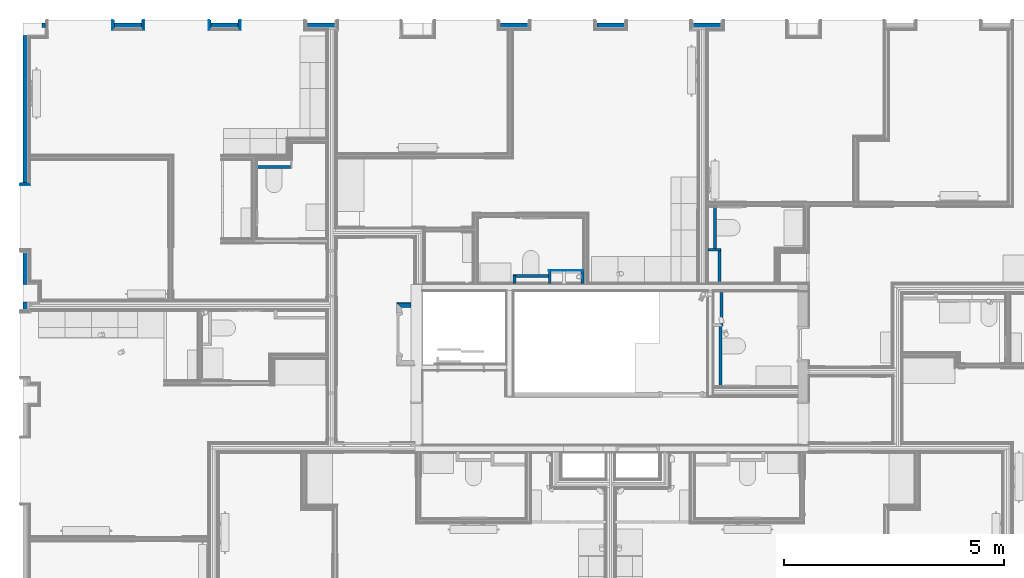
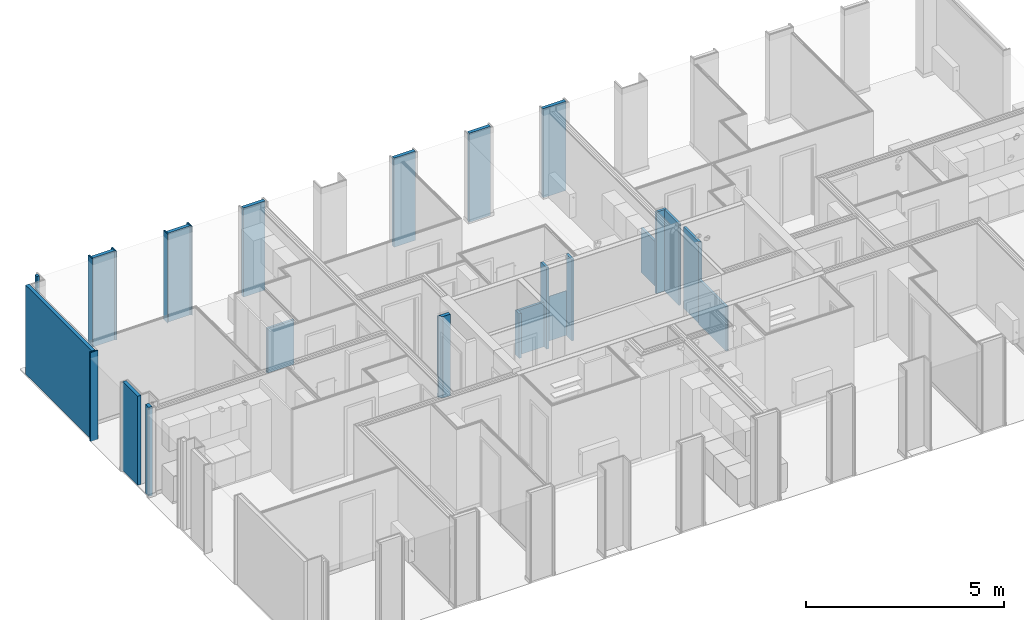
# One storey, part 4 of 82: 32 walls.
"""IFC2X3 building model written with IfcOpenShell, lengths in metres."""

from ifc_helpers import new_model, entity, si_unit, converted_unit, derived_unit, money_unit, direction, frame, frame_2d, origin_with_axes, place, context, subcontext, project, spatial, polyline, rectangle, outline, extrude, clip, bounded_halfspace, material, layer, layer_set, layer_usage, type_object, element, save


model = new_model("IFC2X3")

# Units and contexts
model_context = context("Model", 3, precision=1e-05, world=origin_with_axes(), true_north=direction((0.0, 1.0)))
body_context = subcontext(model_context, "Body", "Model", "MODEL_VIEW", scale=1.0)
ifc_project = project(units=[si_unit("LENGTHUNIT", "METRE"), si_unit("AREAUNIT", "SQUARE_METRE"), si_unit("VOLUMEUNIT", "CUBIC_METRE"), si_unit("ABSORBEDDOSEUNIT", "GRAY"), si_unit("AMOUNTOFSUBSTANCEUNIT", "MOLE"), si_unit("DOSEEQUIVALENTUNIT", "SIEVERT"), si_unit("ELECTRICCAPACITANCEUNIT", "FARAD"), si_unit("ELECTRICCHARGEUNIT", "COULOMB"), si_unit("ELECTRICCONDUCTANCEUNIT", "SIEMENS"), si_unit("ELECTRICCURRENTUNIT", "AMPERE"), si_unit("ELECTRICRESISTANCEUNIT", "OHM"), si_unit("ELECTRICVOLTAGEUNIT", "VOLT"), si_unit("ENERGYUNIT", "JOULE"), si_unit("FORCEUNIT", "NEWTON"), si_unit("FREQUENCYUNIT", "HERTZ"), si_unit("ILLUMINANCEUNIT", "LUX"), si_unit("INDUCTANCEUNIT", "HENRY"), si_unit("LUMINOUSFLUXUNIT", "LUMEN"), si_unit("LUMINOUSINTENSITYUNIT", "CANDELA"), si_unit("MAGNETICFLUXDENSITYUNIT", "TESLA"), si_unit("MAGNETICFLUXUNIT", "WEBER"), si_unit("MASSUNIT", "GRAM"), converted_unit("PLANEANGLEUNIT", "degree", entity("IfcReal", 0.0174532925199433), si_unit("PLANEANGLEUNIT", "RADIAN"), dimensions=[0, 0, 0, 0, 0, 0, 0]), si_unit("POWERUNIT", "WATT"), si_unit("PRESSUREUNIT", "PASCAL"), si_unit("RADIOACTIVITYUNIT", "BECQUEREL"), si_unit("SOLIDANGLEUNIT", "STERADIAN"), si_unit("THERMODYNAMICTEMPERATUREUNIT", "KELVIN"), si_unit("TIMEUNIT", "SECOND"), derived_unit("ACCELERATIONUNIT", [(si_unit("LENGTHUNIT", "METRE"), 1), (si_unit("TIMEUNIT", "SECOND"), -2)]), derived_unit("ANGULARVELOCITYUNIT", [(converted_unit("PLANEANGLEUNIT", "degree", entity("IfcReal", 0.0174532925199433), si_unit("PLANEANGLEUNIT", "RADIAN"), dimensions=[0, 0, 0, 0, 0, 0, 0]), 1), (si_unit("TIMEUNIT", "SECOND"), -1)]), derived_unit("CURVATUREUNIT", [(converted_unit("PLANEANGLEUNIT", "degree", entity("IfcReal", 0.0174532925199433), si_unit("PLANEANGLEUNIT", "RADIAN"), dimensions=[0, 0, 0, 0, 0, 0, 0]), 1), (si_unit("LENGTHUNIT", "METRE"), -1)]), derived_unit("DYNAMICVISCOSITYUNIT", [(si_unit("PRESSUREUNIT", "PASCAL"), 1), (si_unit("TIMEUNIT", "SECOND"), 1)]), derived_unit("HEATFLUXDENSITYUNIT", [(si_unit("POWERUNIT", "WATT"), 1), (si_unit("LENGTHUNIT", "METRE"), -2)]), derived_unit("HEATINGVALUEUNIT", [(si_unit("ENERGYUNIT", "JOULE"), 1), (si_unit("MASSUNIT", "GRAM"), -1)]), derived_unit("INTEGERCOUNTRATEUNIT", [(si_unit("TIMEUNIT", "SECOND"), -1)]), derived_unit("IONCONCENTRATIONUNIT", [(si_unit("MASSUNIT", "GRAM"), 1), (si_unit("VOLUMEUNIT", "CUBIC_METRE"), -1)]), derived_unit("ISOTHERMALMOISTURECAPACITYUNIT", [(si_unit("VOLUMEUNIT", "CUBIC_METRE"), 1), (si_unit("MASSUNIT", "GRAM"), -1)]), derived_unit("KINEMATICVISCOSITYUNIT", [(si_unit("AREAUNIT", "SQUARE_METRE"), 1), (si_unit("TIMEUNIT", "SECOND"), -1)]), derived_unit("LINEARFORCEUNIT", [(si_unit("FORCEUNIT", "NEWTON"), 1), (si_unit("LENGTHUNIT", "METRE"), -1)]), derived_unit("LINEARMOMENTUNIT", [(si_unit("FORCEUNIT", "NEWTON"), 1), (si_unit("LENGTHUNIT", "METRE"), -1)]), derived_unit("LINEARSTIFFNESSUNIT", [(si_unit("FORCEUNIT", "NEWTON"), 1), (si_unit("LENGTHUNIT", "METRE"), -1)]), derived_unit("LINEARVELOCITYUNIT", [(si_unit("LENGTHUNIT", "METRE"), 1), (si_unit("TIMEUNIT", "SECOND"), -1)]), derived_unit("LUMINOUSINTENSITYDISTRIBUTIONUNIT", [(si_unit("LUMINOUSINTENSITYUNIT", "CANDELA"), 1), (si_unit("LUMINOUSFLUXUNIT", "LUMEN"), -1)]), derived_unit("MASSDENSITYUNIT", [(si_unit("MASSUNIT", "GRAM"), 1), (si_unit("VOLUMEUNIT", "CUBIC_METRE"), -1)]), derived_unit("MASSFLOWRATEUNIT", [(si_unit("MASSUNIT", "GRAM"), 1), (si_unit("TIMEUNIT", "SECOND"), -1)]), derived_unit("MASSPERLENGTHUNIT", [(si_unit("MASSUNIT", "GRAM"), 1), (si_unit("LENGTHUNIT", "METRE"), -1)]), derived_unit("MODULUSOFELASTICITYUNIT", [(si_unit("FORCEUNIT", "NEWTON"), 1), (si_unit("AREAUNIT", "SQUARE_METRE"), -1)]), derived_unit("MODULUSOFLINEARSUBGRADEREACTIONUNIT", [(si_unit("FORCEUNIT", "NEWTON"), 1), (si_unit("LENGTHUNIT", "METRE"), -2)]), derived_unit("MODULUSOFROTATIONALSUBGRADEREACTIONUNIT", [(si_unit("FORCEUNIT", "NEWTON"), 1), (si_unit("LENGTHUNIT", "METRE"), 1)]), derived_unit("MODULUSOFSUBGRADEREACTIONUNIT", [(si_unit("FORCEUNIT", "NEWTON"), 1), (si_unit("VOLUMEUNIT", "CUBIC_METRE"), -1)]), derived_unit("MOISTUREDIFFUSIVITYUNIT", [(si_unit("VOLUMEUNIT", "CUBIC_METRE"), 1), (si_unit("TIMEUNIT", "SECOND"), -1)]), derived_unit("MOLECULARWEIGHTUNIT", [(si_unit("MASSUNIT", "GRAM"), 1), (si_unit("AMOUNTOFSUBSTANCEUNIT", "MOLE"), -1)]), derived_unit("PLANARFORCEUNIT", [(si_unit("FORCEUNIT", "NEWTON"), 1), (si_unit("LENGTHUNIT", "METRE"), -2)]), derived_unit("ROTATIONALFREQUENCYUNIT", [(si_unit("TIMEUNIT", "SECOND"), -1)]), derived_unit("ROTATIONALMASSUNIT", [(si_unit("MASSUNIT", "GRAM"), 1), (si_unit("LENGTHUNIT", "METRE"), 2)]), derived_unit("ROTATIONALSTIFFNESSUNIT", [(si_unit("FORCEUNIT", "NEWTON"), 1), (si_unit("LENGTHUNIT", "METRE"), 1), (converted_unit("PLANEANGLEUNIT", "degree", entity("IfcReal", 0.0174532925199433), si_unit("PLANEANGLEUNIT", "RADIAN"), dimensions=[0, 0, 0, 0, 0, 0, 0]), -1)]), derived_unit("SECTIONAREAINTEGRALUNIT", [(si_unit("LENGTHUNIT", "METRE"), 5)]), derived_unit("SECTIONMODULUSUNIT", [(si_unit("LENGTHUNIT", "METRE"), 3)]), derived_unit("SHEARMODULUSUNIT", [(si_unit("FORCEUNIT", "NEWTON"), 1), (si_unit("AREAUNIT", "SQUARE_METRE"), -1)]), derived_unit("SOUNDPOWERUNIT", [(si_unit("ENERGYUNIT", "JOULE"), 1), (si_unit("TIMEUNIT", "SECOND"), -1)]), derived_unit("SPECIFICHEATCAPACITYUNIT", [(si_unit("FORCEUNIT", "NEWTON"), 1), (si_unit("MASSUNIT", "GRAM"), -1), (si_unit("THERMODYNAMICTEMPERATUREUNIT", "KELVIN"), -1)]), derived_unit("TEMPERATUREGRADIENTUNIT", [(si_unit("THERMODYNAMICTEMPERATUREUNIT", "KELVIN"), 1), (si_unit("LENGTHUNIT", "METRE"), -1)]), derived_unit("THERMALADMITTANCEUNIT", [(si_unit("POWERUNIT", "WATT"), 1), (si_unit("AREAUNIT", "SQUARE_METRE"), -1), (si_unit("THERMODYNAMICTEMPERATUREUNIT", "KELVIN"), -1)]), derived_unit("THERMALCONDUCTANCEUNIT", [(si_unit("POWERUNIT", "WATT"), 1), (si_unit("LENGTHUNIT", "METRE"), -1), (si_unit("THERMODYNAMICTEMPERATUREUNIT", "KELVIN"), -1)]), derived_unit("THERMALEXPANSIONCOEFFICIENTUNIT", [(si_unit("THERMODYNAMICTEMPERATUREUNIT", "KELVIN"), -1)]), derived_unit("THERMALRESISTANCEUNIT", [(si_unit("AREAUNIT", "SQUARE_METRE"), 1), (si_unit("POWERUNIT", "WATT"), -1)]), derived_unit("THERMALTRANSMITTANCEUNIT", [(si_unit("POWERUNIT", "WATT"), 1), (si_unit("AREAUNIT", "SQUARE_METRE"), -1), (si_unit("THERMODYNAMICTEMPERATUREUNIT", "KELVIN"), -1)]), derived_unit("TORQUEUNIT", [(si_unit("FORCEUNIT", "NEWTON"), 1), (si_unit("LENGTHUNIT", "METRE"), 1)]), derived_unit("VAPORPERMEABILITYUNIT", [(si_unit("MASSUNIT", "GRAM"), 1), (si_unit("TIMEUNIT", "SECOND"), -1)]), derived_unit("VOLUMETRICFLOWRATEUNIT", [(si_unit("VOLUMEUNIT", "CUBIC_METRE"), 1), (si_unit("TIMEUNIT", "SECOND"), -1)]), derived_unit("WARPINGCONSTANTUNIT", [(si_unit("LENGTHUNIT", "METRE"), 6)]), derived_unit("WARPINGMOMENTUNIT", [(si_unit("FORCEUNIT", "NEWTON"), 1), (si_unit("LENGTHUNIT", "METRE"), 2)]), money_unit("GBP")], contexts=[model_context])

# Site, building, storey
site_placement = place(None, origin_with_axes())
site = spatial("IfcSite", under=ifc_project, at=site_placement, Name="Site", CompositionType="ELEMENT")
building_placement = place(site_placement, origin_with_axes())
building = spatial("IfcBuilding", under=site, at=building_placement, Name="Building01", CompositionType="ELEMENT")
storey_placement = place(building_placement, frame((0.0, 0.0, 12.13), z_axis=(0.0, 0.0, 1.0), x_axis=(1.0, 0.0, 0.0)))
storey = spatial("IfcBuildingStorey", under=building, at=storey_placement, Name="3F", CompositionType="ELEMENT", Elevation=12.13)

# Walls
ifc_material_1 = material(Name="A_BSUK_WallsExternal_Block")
ifc_layer_1 = layer(ifc_material_1, 0.1, ventilated=False)
ifc_layer_set_1 = layer_set([ifc_layer_1])
ifc_layer_usage_1 = layer_usage(ifc_layer_set_1, "AXIS2", "POSITIVE", 0.0)
wall_type_1 = type_object("IfcWallType", Name="A-Walls-ExternalBlock", PredefinedType="NOTDEFINED")
wall_1_placement = place(storey_placement, frame((0.6, 14.63, 0.0), z_axis=(0.0, 0.0, 1.0), x_axis=(1.0, 0.0, 0.0)))
element("IfcWallStandardCase", 1, at=wall_1_placement, inside=storey, type_object=wall_type_1, material=ifc_layer_usage_1, Name="A-Walls-ExternalBlock", ObjectType="A-Walls-ExternalBlock", context=body_context, shape_type="SweptSolid", body=[
    extrude(rectangle(XDim=0.077, YDim=0.1, at=frame_2d((0.0385, 0.05), x_axis=(1.0, 0.0))), origin_with_axes(), (0.0, 0.0, 1.0), 2.74),
])
wall_2_placement = place(storey_placement, frame((0.17, 14.45, 0.0), z_axis=(0.0, 0.0, 1.0), x_axis=(0.0, -1.0, 0.0)))
element("IfcWallStandardCase", 2, at=wall_2_placement, inside=storey, type_object=wall_type_1, material=ifc_layer_usage_1, Name="A-Walls-ExternalBlock", ObjectType="A-Walls-ExternalBlock", context=body_context, shape_type="SweptSolid", body=[
    extrude(rectangle(XDim=3.347, YDim=0.1, at=frame_2d((1.6735, 0.05), x_axis=(1.0, 0.0))), origin_with_axes(), (0.0, 0.0, 1.0), 2.74),
])
wall_3_placement = place(storey_placement, frame((0.17, 9.55018, 0.0), z_axis=(0.0, 0.0, 1.0), x_axis=(0.0, -1.0, 0.0)))
element("IfcWallStandardCase", 3, at=wall_3_placement, inside=storey, type_object=wall_type_1, material=ifc_layer_usage_1, Name="A-Walls-ExternalBlock", ObjectType="A-Walls-ExternalBlock", context=body_context, shape_type="SweptSolid", body=[
    extrude(rectangle(XDim=0.1, YDim=0.75018, at=frame_2d((0.37509, 0.05), x_axis=(0.0, -1.0))), origin_with_axes(), (0.0, 0.0, 1.0), 2.74),
])
wall_4_placement = place(storey_placement, frame((0.17, 8.4, 0.0), z_axis=(0.0, 0.0, 1.0), x_axis=(0.0, -1.0, 0.0)))
element("IfcWallStandardCase", 4, at=wall_4_placement, inside=storey, type_object=wall_type_1, material=ifc_layer_usage_1, Name="A-Walls-ExternalBlock", ObjectType="A-Walls-ExternalBlock", context=body_context, shape_type="SweptSolid", body=[
    extrude(rectangle(XDim=0.167, YDim=0.1, at=frame_2d((0.0835, 0.05), x_axis=(-1.0, 0.0))), origin_with_axes(), (0.0, 0.0, 1.0), 2.74),
])
for number, where, z_axis, x_axis, name in (
    (5, (2.243, 14.63, 0.0), (0.0, 0.0, 1.0), (1.0, 0.0, 0.0), "A-Walls-ExternalBlock"),
    (6, (4.433, 14.63, 0.0), (0.0, 0.0, 1.0), (1.0, 0.0, 0.0), "A-Walls-ExternalBlock"),
):
    element("IfcWallStandardCase", number, at=place(storey_placement, frame(where, z_axis=z_axis, x_axis=x_axis)), inside=storey, type_object=wall_type_1, material=ifc_layer_usage_1, Name=name, ObjectType="A-Walls-ExternalBlock", context=body_context, shape_type="SweptSolid", body=[
        extrude(rectangle(XDim=0.624, YDim=0.1, at=frame_2d((0.312, 0.05), x_axis=(1.0, 0.0))), origin_with_axes(), (0.0, 0.0, 1.0), 2.74),
    ])
wall_5_placement = place(storey_placement, frame((6.622876, 14.63, 0.0), z_axis=(0.0, 0.0, 1.0), x_axis=(1.0, 0.0, 0.0)))
element("IfcWallStandardCase", 7, at=wall_5_placement, inside=storey, type_object=wall_type_1, material=ifc_layer_usage_1, Name="A-Walls-ExternalBlock", ObjectType="A-Walls-ExternalBlock", context=body_context, shape_type="SweptSolid", body=[
    extrude(rectangle(XDim=0.624124, YDim=0.1, at=frame_2d((0.312062, 0.05), x_axis=(-1.0, 0.0))), origin_with_axes(), (0.0, 0.0, 1.0), 2.74),
])
for number, where, z_axis, x_axis, name in (
    (8, (11.003, 14.63, 0.0), (0.0, 0.0, 1.0), (1.0, 0.0, 0.0), "A-Walls-ExternalBlock"),
    (9, (13.193, 14.63, 0.0), (0.0, 0.0, 1.0), (1.0, 0.0, 0.0), "A-Walls-ExternalBlock"),
):
    element("IfcWallStandardCase", number, at=place(storey_placement, frame(where, z_axis=z_axis, x_axis=x_axis)), inside=storey, type_object=wall_type_1, material=ifc_layer_usage_1, Name=name, ObjectType="A-Walls-ExternalBlock", context=body_context, shape_type="SweptSolid", body=[
        extrude(rectangle(XDim=0.624, YDim=0.1, at=frame_2d((0.312, 0.05), x_axis=(1.0, 0.0))), origin_with_axes(), (0.0, 0.0, 1.0), 2.74),
    ])
wall_6_placement = place(storey_placement, frame((15.347, 14.63, 0.0), z_axis=(0.0, 0.0, 1.0), x_axis=(1.0, 0.0, 0.0)))
element("IfcWallStandardCase", 10, at=wall_6_placement, inside=storey, type_object=wall_type_1, material=ifc_layer_usage_1, Name="A-Walls-ExternalBlock", ObjectType="A-Walls-ExternalBlock", context=body_context, shape_type="SweptSolid", body=[
    extrude(rectangle(XDim=0.1, YDim=0.66, at=frame_2d((0.33, 0.05), x_axis=(0.0, -1.0))), origin_with_axes(), (0.0, 0.0, 1.0), 2.74),
])
ifc_material_2 = material(Name="A_BSUK_OpeningsClearance")
ifc_layer_2 = layer(ifc_material_2, 0.05, ventilated=False)
ifc_material_3 = material(Name="A_BSUK_Walls_Timber")
ifc_layer_3 = layer(ifc_material_3, 0.015, ventilated=False)
ifc_layer_set_2 = layer_set([ifc_layer_2, ifc_layer_3])
ifc_layer_usage_2 = layer_usage(ifc_layer_set_2, "AXIS2", "POSITIVE", 0.0)
wall_type_2 = type_object("IfcWallType", Name="SHE_A-Walls_Type05c_PreWallShell_65mm", PredefinedType="NOTDEFINED")
wall_7_placement = place(storey_placement, frame((12.153871, 8.82, 0.0), z_axis=(0.0, 0.0, 1.0), x_axis=(0.0, 1.0, 0.0)))
element("IfcWallStandardCase", 11, at=wall_7_placement, inside=storey, type_object=wall_type_2, material=ifc_layer_usage_2, Name="5C", ObjectType="SHE_A-Walls_Type05c_PreWallShell_65mm", context=body_context, shape_type="SweptSolid", body=[
    extrude(outline(polyline([(0.285, 0.05), (0.3, 0.05), (0.3, 0.065), (0.0, 0.065), (0.0, 0.0), (0.285, 0.0), (0.285, 0.05)])), origin_with_axes(), (0.0, 0.0, 1.0), 2.51),
])
ifc_layer_set_3 = layer_set([ifc_layer_3, ifc_layer_2])
ifc_layer_usage_3 = layer_usage(ifc_layer_set_3, "AXIS2", "POSITIVE", 0.0)
wall_8_placement = place(storey_placement, frame((15.985, 7.915, 0.0), z_axis=(0.0, 0.0, 1.0), x_axis=(0.0, 1.0, 0.0)))
element("IfcWallStandardCase", 12, at=wall_8_placement, inside=storey, type_object=wall_type_2, material=ifc_layer_usage_3, Name="5C", ObjectType="SHE_A-Walls_Type05c_PreWallShell_65mm", context=body_context, shape_type="SweptSolid", body=[
    extrude(outline(polyline([(0.72, -0.05), (0.75, -0.05), (0.75, 0.0), (0.0, 0.0), (-0.065, -0.065), (0.72, -0.065), (0.72, -0.05)])), origin_with_axes(), (0.0, 0.0, 1.0), 2.51),
])
wall_9_placement = place(storey_placement, frame((15.965, 6.59, 0.0), z_axis=(0.0, 0.0, 1.0), x_axis=(0.0, 1.0, 0.0)))
element("IfcWallStandardCase", 13, at=wall_9_placement, inside=storey, type_object=wall_type_2, material=ifc_layer_usage_3, Name="5C", ObjectType="SHE_A-Walls_Type05c_PreWallShell_65mm", context=body_context, shape_type="SweptSolid", body=[
    extrude(outline(polyline([(1.275, -0.05), (1.275, 0.0), (-0.103, 0.0), (-0.103, -0.05), (-0.115, -0.05), (-0.115, -0.065), (1.325, -0.065), (1.325, -0.05), (1.275, -0.05)])), origin_with_axes(), (0.0, 0.0, 1.0), 1.375),
])
wall_10_placement = place(storey_placement, frame((12.828585, 8.82, 0.0), z_axis=(0.0, 0.0, 1.0), x_axis=(0.0, 1.0, 0.0)))
element("IfcWallStandardCase", 14, at=wall_10_placement, inside=storey, type_object=wall_type_2, material=ifc_layer_usage_3, Name="5C", ObjectType="SHE_A-Walls_Type05c_PreWallShell_65mm", context=body_context, shape_type="SweptSolid", body=[
    extrude(outline(polyline([(0.285, -0.05), (0.285, 0.0), (0.0, 0.0), (0.0, -0.065), (0.3, -0.065), (0.3, -0.05), (0.285, -0.05)])), origin_with_axes(), (0.0, 0.0, 1.0), 2.51),
])
wall_11_placement = place(storey_placement, frame((15.943132, 9.555, 0.0), z_axis=(0.0, 0.0, 1.0), x_axis=(0.0, -1.0, 0.0)))
element("IfcWallStandardCase", 15, at=wall_11_placement, inside=storey, type_object=wall_type_2, material=ifc_layer_usage_2, Name="5C", ObjectType="SHE_A-Walls_Type05c_PreWallShell_65mm", context=body_context, shape_type="SweptSolid", body=[
    extrude(outline(polyline([(0.72, 0.05), (0.72, 0.065), (-0.065, 0.065), (-0.065, 0.05), (0.0, 0.05), (0.0, 0.0), (0.735, 0.0), (0.735, 0.05), (0.72, 0.05)])), origin_with_axes(), (0.0, 0.0, 1.0), 2.51),
])
wall_12_placement = place(storey_placement, frame((15.708132, 9.555, 0.0), z_axis=(0.0, 0.0, 1.0), x_axis=(1.0, 0.0, 0.0)))
element("IfcWallStandardCase", 16, at=wall_12_placement, inside=storey, type_object=wall_type_2, material=ifc_layer_usage_2, Name="5C", ObjectType="SHE_A-Walls_Type05c_PreWallShell_65mm", context=body_context, shape_type="SweptSolid", body=[
    extrude(rectangle(XDim=0.285, YDim=0.065, at=frame_2d((0.1425, 0.0325), x_axis=(-1.0, 0.0))), origin_with_axes(), (0.0, 0.0, 1.0), 2.51),
])
wall_13_placement = place(storey_placement, frame((15.843132, 9.605, 0.0), z_axis=(0.0, 0.0, 1.0), x_axis=(0.0, 1.0, 0.0)))
element("IfcWallStandardCase", 17, at=wall_13_placement, inside=storey, type_object=wall_type_2, material=ifc_layer_usage_3, Name="5C", ObjectType="SHE_A-Walls_Type05c_PreWallShell_65mm", context=body_context, shape_type="SweptSolid", body=[
    extrude(outline(polyline([(0.95, -0.05), (0.965, -0.05), (0.965, 0.0), (0.0, 0.0), (0.0, -0.05), (-0.05, -0.05), (-0.05, -0.065), (0.95, -0.065), (0.95, -0.05)])), origin_with_axes(), (0.0, 0.0, 1.0), 1.375),
])
wall_14_placement = place(storey_placement, frame((5.464669, 11.495672, 0.0), z_axis=(0.0, 0.0, 1.0), x_axis=(1.0, 0.0, 0.0)))
element("IfcWallStandardCase", 18, at=wall_14_placement, inside=storey, type_object=wall_type_2, material=ifc_layer_usage_3, Name="5C", ObjectType="SHE_A-Walls_Type05c_PreWallShell_65mm", context=body_context, shape_type="SweptSolid", body=[
    extrude(outline(polyline([(0.775, 0.0), (0.0, 0.0), (0.0, -0.05), (0.015, -0.05), (0.015, -0.065), (0.775, -0.065), (0.775, 0.0)])), origin_with_axes(), (0.0, 0.0, 1.0), 1.375),
])
wall_15_placement = place(storey_placement, frame((12.103871, 8.954996, 0.0), z_axis=(0.0, 0.0, 1.0), x_axis=(-1.0, 0.0, 0.0)))
element("IfcWallStandardCase", 19, at=wall_15_placement, inside=storey, type_object=wall_type_2, material=ifc_layer_usage_3, Name="5C", ObjectType="SHE_A-Walls_Type05c_PreWallShell_65mm", context=body_context, shape_type="SweptSolid", body=[
    extrude(outline(polyline([(0.749998, -0.05), (0.749998, 0.0), (0.0, 0.0), (0.0, -0.05), (0.015, -0.05), (0.015, -0.065), (0.799998, -0.065), (0.799998, -0.05), (0.749998, -0.05)])), origin_with_axes(), (0.0, 0.0, 1.0), 1.375),
])
wall_16_placement = place(storey_placement, frame((11.353873, 8.82, 0.0), z_axis=(0.0, 0.0, 1.0), x_axis=(0.0, 1.0, 0.0)))
element("IfcWallStandardCase", 20, at=wall_16_placement, inside=storey, type_object=wall_type_2, material=ifc_layer_usage_2, Name="5C", ObjectType="SHE_A-Walls_Type05c_PreWallShell_65mm", context=body_context, shape_type="SweptSolid", body=[
    extrude(outline(polyline([(0.184996, 0.05), (0.199996, 0.05), (0.199996, 0.065), (0.0, 0.065), (0.0, 0.0), (0.184996, 0.0), (0.184996, 0.05)])), origin_with_axes(), (0.0, 0.0, 1.0), 1.375),
])
ifc_material_4 = material(Name="A_BSUK_WallInternal_Finishes_Plasterboard")
ifc_layer_4 = layer(ifc_material_4, 0.013, ventilated=False)
ifc_layer_set_4 = layer_set([ifc_layer_4])
ifc_layer_usage_4 = layer_usage(ifc_layer_set_4, "AXIS2", "POSITIVE", 0.0)
wall_type_3 = type_object("IfcWallType", Name="default", PredefinedType="NOTDEFINED")
wall_17_placement = place(storey_placement, frame((0.305, 11.068, 0.0), z_axis=(0.0, 0.0, 1.0), x_axis=(-1.0, 0.0, 0.0)))
element("IfcWallStandardCase", 21, at=wall_17_placement, inside=storey, type_object=wall_type_3, material=ifc_layer_usage_4, Name="default", ObjectType="default", context=body_context, shape_type="SweptSolid", body=[
    extrude(outline(polyline([(-0.013, 0.013), (0.0, 0.0), (0.205, 0.0), (0.205, 0.013), (-0.013, 0.013)])), origin_with_axes(), (0.0, 0.0, 1.0), 2.74),
])
ifc_material_5 = material(Name="A_BSUK_Insulation")
ifc_layer_5 = layer(ifc_material_5, 0.036, ventilated=False)
ifc_layer_set_5 = layer_set([ifc_layer_5])
ifc_layer_usage_5 = layer_usage(ifc_layer_set_5, "AXIS2", "POSITIVE", 0.0)
wall_18_placement = place(storey_placement, frame((0.27, 11.103, 0.0), z_axis=(0.0, 0.0, 1.0), x_axis=(-1.0, 0.0, 0.0)))
element("IfcWallStandardCase", 22, at=wall_18_placement, inside=storey, type_object=wall_type_3, material=ifc_layer_usage_5, Name="default", ObjectType="default", context=body_context, shape_type="SweptSolid", body=[
    extrude(outline(polyline([(-0.036, 0.036), (0.0, 0.0), (0.17, 0.0), (0.17, 0.036), (-0.036, 0.036)])), origin_with_axes(), (0.0, 0.0, 1.0), 2.74),
])
wall_19_placement = place(storey_placement, frame((2.902, 14.8, 0.0), z_axis=(0.0, 0.0, 1.0), x_axis=(0.0, -1.0, 0.0)))
element("IfcWallStandardCase", 23, at=wall_19_placement, inside=storey, type_object=wall_type_3, material=ifc_layer_usage_4, Name="default", ObjectType="default", context=body_context, shape_type="SweptSolid", body=[
    extrude(outline(polyline([(0.218, 0.013), (0.0, 0.013), (0.0, 0.0), (0.205, 0.0), (0.218, 0.013)])), origin_with_axes(), (0.0, 0.0, 1.0), 2.74),
])
wall_20_placement = place(storey_placement, frame((2.867, 14.8, 0.0), z_axis=(0.0, 0.0, 1.0), x_axis=(0.0, -1.0, 0.0)))
element("IfcWallStandardCase", 24, at=wall_20_placement, inside=storey, type_object=wall_type_3, material=ifc_layer_usage_5, Name="default", ObjectType="default", context=body_context, shape_type="SweptSolid", body=[
    extrude(outline(polyline([(0.206, 0.036), (0.0, 0.036), (0.0, 0.0), (0.17, 0.0), (0.206, 0.036)])), origin_with_axes(), (0.0, 0.0, 1.0), 2.74),
])
wall_21_placement = place(storey_placement, frame((2.208, 14.595, 0.0), z_axis=(0.0, 0.0, 1.0), x_axis=(0.0, 1.0, 0.0)))
element("IfcWallStandardCase", 25, at=wall_21_placement, inside=storey, type_object=wall_type_3, material=ifc_layer_usage_4, Name="default", ObjectType="default", context=body_context, shape_type="SweptSolid", body=[
    extrude(outline(polyline([(-0.013, 0.013), (0.0, 0.0), (0.205, 0.0), (0.205, 0.013), (-0.013, 0.013)])), origin_with_axes(), (0.0, 0.0, 1.0), 2.74),
])
wall_22_placement = place(storey_placement, frame((2.243, 14.63, 0.0), z_axis=(0.0, 0.0, 1.0), x_axis=(0.0, 1.0, 0.0)))
element("IfcWallStandardCase", 26, at=wall_22_placement, inside=storey, type_object=wall_type_3, material=ifc_layer_usage_5, Name="default", ObjectType="default", context=body_context, shape_type="SweptSolid", body=[
    extrude(outline(polyline([(-0.036, 0.036), (0.0, 0.0), (0.17, 0.0), (0.17, 0.036), (-0.036, 0.036)])), origin_with_axes(), (0.0, 0.0, 1.0), 2.74),
])
wall_23_placement = place(storey_placement, frame((5.092, 14.8, 0.0), z_axis=(0.0, 0.0, 1.0), x_axis=(0.0, -1.0, 0.0)))
element("IfcWallStandardCase", 27, at=wall_23_placement, inside=storey, type_object=wall_type_3, material=ifc_layer_usage_4, Name="default", ObjectType="default", context=body_context, shape_type="SweptSolid", body=[
    extrude(outline(polyline([(0.218, 0.013), (0.0, 0.013), (0.0, 0.0), (0.205, 0.0), (0.218, 0.013)])), origin_with_axes(), (0.0, 0.0, 1.0), 2.74),
])
wall_24_placement = place(storey_placement, frame((5.057, 14.8, 0.0), z_axis=(0.0, 0.0, 1.0), x_axis=(0.0, -1.0, 0.0)))
element("IfcWallStandardCase", 28, at=wall_24_placement, inside=storey, type_object=wall_type_3, material=ifc_layer_usage_5, Name="default", ObjectType="default", context=body_context, shape_type="SweptSolid", body=[
    extrude(outline(polyline([(0.206, 0.036), (0.0, 0.036), (0.0, 0.0), (0.17, 0.0), (0.206, 0.036)])), origin_with_axes(), (0.0, 0.0, 1.0), 2.74),
])
wall_25_placement = place(storey_placement, frame((4.398, 14.595, 0.0), z_axis=(0.0, 0.0, 1.0), x_axis=(0.0, 1.0, 0.0)))
element("IfcWallStandardCase", 29, at=wall_25_placement, inside=storey, type_object=wall_type_3, material=ifc_layer_usage_4, Name="default", ObjectType="default", context=body_context, shape_type="SweptSolid", body=[
    extrude(outline(polyline([(-0.013, 0.013), (0.0, 0.0), (0.205, 0.0), (0.205, 0.013), (-0.013, 0.013)])), origin_with_axes(), (0.0, 0.0, 1.0), 2.74),
])
wall_26_placement = place(storey_placement, frame((4.433, 14.63, 0.0), z_axis=(0.0, 0.0, 1.0), x_axis=(0.0, 1.0, 0.0)))
element("IfcWallStandardCase", 30, at=wall_26_placement, inside=storey, type_object=wall_type_3, material=ifc_layer_usage_5, Name="default", ObjectType="default", context=body_context, shape_type="SweptSolid", body=[
    extrude(outline(polyline([(-0.036, 0.036), (0.0, 0.0), (0.17, 0.0), (0.17, 0.036), (-0.036, 0.036)])), origin_with_axes(), (0.0, 0.0, 1.0), 2.74),
])
ifc_layer_set_6 = layer_set([ifc_layer_3])
ifc_layer_usage_6 = layer_usage(ifc_layer_set_6, "AXIS2", "POSITIVE", 0.0)
wall_27_placement = place(storey_placement, frame((12.103871, 9.105, 0.0), z_axis=(0.0, 0.0, 1.0), x_axis=(1.0, 0.0, 0.0)))
element("IfcWallStandardCase", 31, at=wall_27_placement, inside=storey, type_object=wall_type_3, material=ifc_layer_usage_6, Name="default", ObjectType="default", context=body_context, shape_type="SweptSolid", body=[
    extrude(rectangle(XDim=0.774714, YDim=0.015, at=frame_2d((0.387357, 0.0075), x_axis=(-1.0, 0.0))), origin_with_axes(), (0.0, 0.0, 1.0), 1.375),
])
ifc_layer_6 = layer(ifc_material_4, 0.015, ventilated=False)
ifc_material_6 = material(Name="Air Cavity")
ifc_layer_7 = layer(ifc_material_6, 0.072, ventilated=False)
ifc_layer_set_7 = layer_set([ifc_layer_6, ifc_layer_7, ifc_layer_6, ifc_layer_3])
ifc_layer_usage_7 = layer_usage(ifc_layer_set_7, "AXIS2", "POSITIVE", 0.0)
wall_type_4 = type_object("IfcWallType", Name="SHE_A-Walls_Type04c_RiserWall_102mm_tall", PredefinedType="NOTDEFINED")
wall_28_placement = place(storey_placement, frame((8.658, 8.372405, 0.015), z_axis=(0.0, 0.0, 1.0), x_axis=(1.0, 0.0, 0.0)))
element("IfcWallStandardCase", 32, at=wall_28_placement, inside=storey, type_object=wall_type_4, material=ifc_layer_usage_7, Name="4C", ObjectType="SHE_A-Walls_Type04c_RiserWall_102mm_tall", context=body_context, shape_type="Clipping", body=[
    clip(clip(extrude(outline(polyline([(0.102, -0.102), (0.317, -0.102), (0.317, 0.015), (-0.015, 0.015), (0.0, 0.0), (0.0, -0.015), (0.015, -0.015), (0.102, -0.102)])), frame((0.0, 0.0, -0.015), z_axis=(0.0, 0.0, 1.0), x_axis=(1.0, 0.0, 0.0)), (0.0, 0.0, 1.0), 2.51), bounded_halfspace(frame((0.0, 0.0, 0.1), z_axis=(0.0, 0.0, 1.0), x_axis=(1.0, 0.0, 0.0)), False, frame((0.0, 0.0, 0.1), z_axis=(0.0, 0.0, 1.0), x_axis=(1.0, 0.0, 0.0)), polyline([(-0.015, 0.015), (0.0, 0.0), (0.317, 0.0), (0.317, 0.015), (-0.015, 0.015)]))), bounded_halfspace(frame((0.0, 0.0, 0.0), z_axis=(0.0, 0.0, -1.0), x_axis=(-1.0, 0.0, 0.0)), False, frame((0.0, 0.0, 0.0), z_axis=(0.0, 0.0, -1.0), x_axis=(-1.0, 0.0, 0.0)), polyline([(-0.317, 0.015), (-0.317, 0.0), (0.0, 0.0), (0.015, 0.015), (-0.317, 0.015)]))),
])

save(model, "model.ifc")
